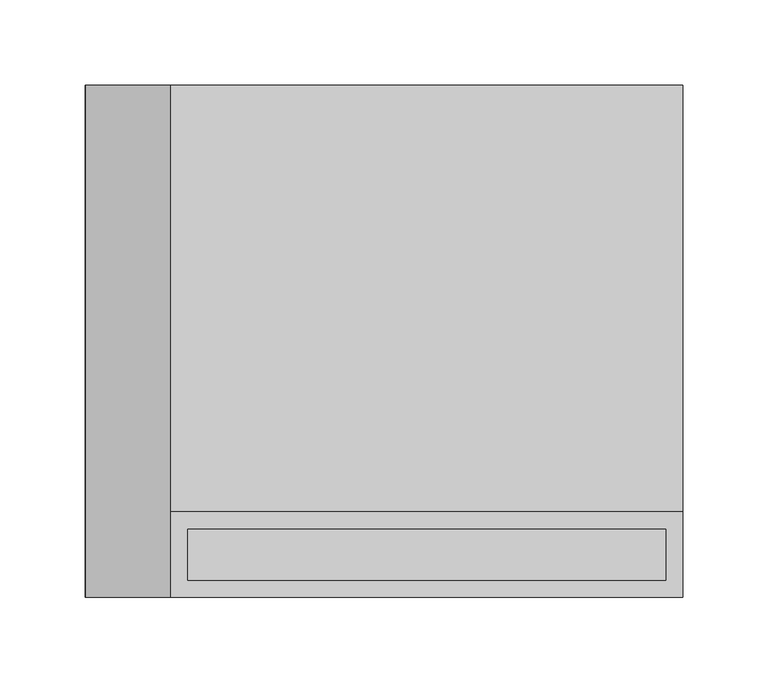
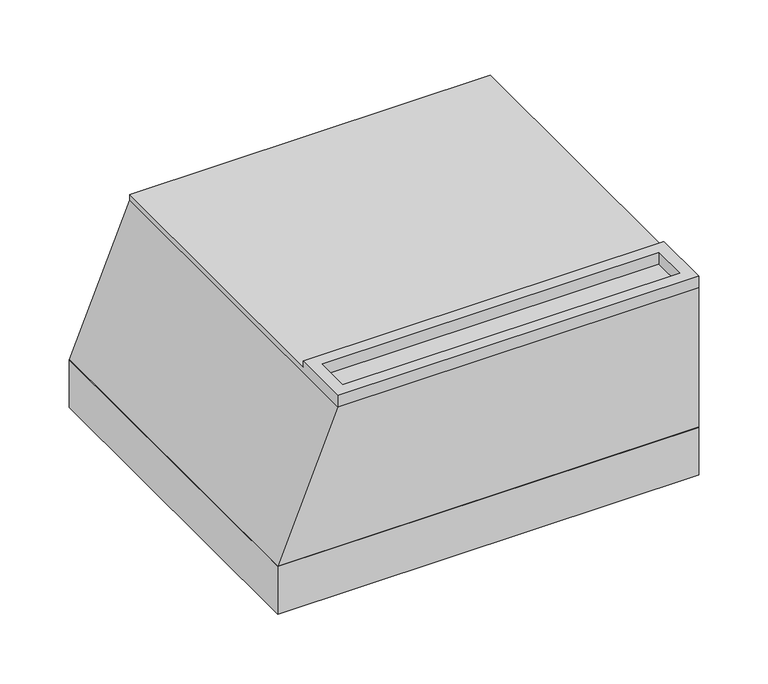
"""IFC4 building model written with IfcOpenShell, lengths in millimetres: cable carrier fitting geometry, BAKS_Universal elbow : KRUMJ_H42."""

from ifc_helpers import new_model, si_unit, frame, origin, place, context, project, spatial, polyline, outline, extrude, faceted_brep, source, transform, mapped, element, save


def cable_carrier_fitting_0e05e12f(model_context):
    return source(origin(), model_context, "Body", "SolidModel", [
        faceted_brep([(350.0, 150.0, 149.0), (50.0, 150.0, 149.0), (50.0, -100.0, 149.0), (350.0, -100.0, 149.0), (350.0, 150.0, 144.0), (350.0, -150.0, 144.0), (50.0, -150.0, 144.0), (50.0, 150.0, 144.0), (340.0, -110.0, 144.0), (60.0, -110.0, 144.0), (60.0, -140.0, 144.0), (340.0, -140.0, 144.0), (50.0, -150.0, 154.0), (50.0, -100.0, 154.0), (350.0, -150.0, 154.0), (350.0, -100.0, 154.0), (60.0, -110.0, 154.0), (340.0, -110.0, 154.0), (340.0, -140.0, 154.0), (60.0, -140.0, 154.0)], [[[0, 1, 2, 3]], [[4, 5, 6, 7], [8, 9, 10, 11]], [[1, 0, 4, 7]], [[7, 6, 12, 13, 2, 1]], [[6, 5, 14, 12]], [[5, 4, 0, 3, 15, 14]], [[15, 13, 12, 14], [16, 17, 18, 19]], [[13, 15, 3, 2]], [[16, 9, 8, 17]], [[9, 16, 19, 10]], [[10, 19, 18, 11]], [[17, 8, 11, 18]]]),
        extrude(outline(polyline([(350.0, 150.0), (350.0, -150.0), (0.0, -150.0), (0.0, 150.0), (350.0, 150.0)])), frame((0.0, 0.0, -21.0), z_axis=(0.0, 0.0, 1.0), x_axis=(1.0, 0.0, 0.0)), (0.0, 0.0, 1.0), 42.0),
        extrude(outline(polyline([(21.0, 0.0), (21.0, 350.0), (144.0, 350.0), (144.0, 50.0), (21.0, 0.0)])), frame((0.0, -150.0, 0.0), z_axis=(0.0, 1.0, 0.0), x_axis=(0.0, 0.0, 1.0)), (0.0, 0.0, 1.0), 300.0),
    ])


if __name__ == "__main__":
    model = new_model("IFC4")
    model_context = context("Model", 3, world=origin())
    ifc_project = project(units=[si_unit("LENGTHUNIT", "METRE", prefix="MILLI")], contexts=[model_context])
    site = spatial("IfcSite", under=ifc_project)
    building = spatial("IfcBuilding", under=site)
    placement = place(None, origin())
    cable_carrier_fitting_shape = cable_carrier_fitting_0e05e12f(model_context)
    element("IfcCableCarrierFitting", 1, ObjectType="BAKS_Universal elbow : KRUMJ_H42", at=placement, inside=building, context=model_context, shape_type="MappedRepresentation", body=[
        mapped(cable_carrier_fitting_shape, transform((0.0, 0.0, 0.0), x_axis=(1.0, 0.0, 0.0), y_axis=(0.0, 1.0, 0.0), z_axis=(0.0, 0.0, 1.0))),
    ])
    save(model, "model.ifc")
